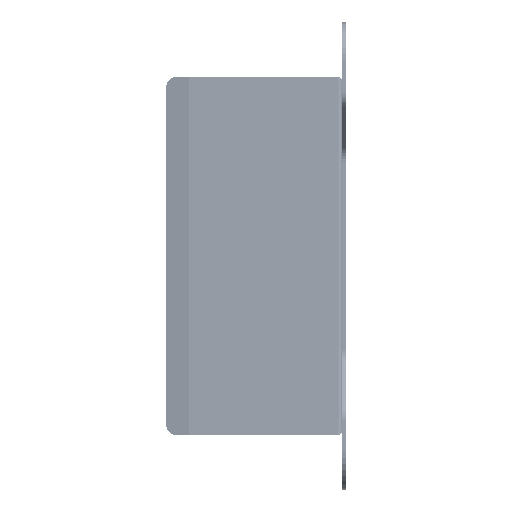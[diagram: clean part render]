
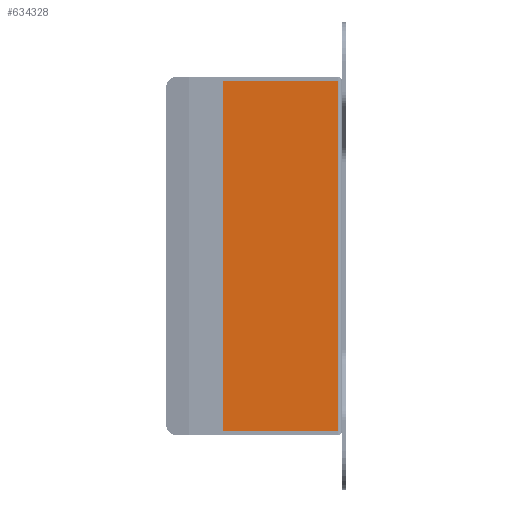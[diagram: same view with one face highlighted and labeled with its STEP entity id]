
A CAD part, left-side view. The second image highlights one B-rep face of the part: STEP entity #634328.
In plain terms, the highlighted planar face has unit normal (-1, 0, 0) as drawn and (1, 0, 0) by its records, which use the part's own axes.
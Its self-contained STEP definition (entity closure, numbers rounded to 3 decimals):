
#632423=DIRECTION('',(0.,-1.,0.));
#632424=VECTOR('',#632423,29.5);
#632425=CARTESIAN_POINT('',(31.9,-0.1,44.8));
#632426=LINE('',#632425,#632424);
#632427=DIRECTION('',(0.,1.,0.));
#632428=VECTOR('',#632427,29.5);
#632429=CARTESIAN_POINT('',(31.9,-29.6,-44.8));
#632430=LINE('',#632429,#632428);
#632431=DIRECTION('',(0.,0.,-1.));
#632432=VECTOR('',#632431,89.6);
#632433=CARTESIAN_POINT('',(31.9,-29.6,44.8));
#632434=LINE('',#632433,#632432);
#632435=DIRECTION('',(0.,0.,1.));
#632436=VECTOR('',#632435,89.6);
#632437=CARTESIAN_POINT('',(31.9,-0.1,-44.8));
#632438=LINE('',#632437,#632436);
#633333=CARTESIAN_POINT('',(31.9,-0.1,44.8));
#633334=CARTESIAN_POINT('',(31.9,-29.6,44.8));
#633335=VERTEX_POINT('',#633333);
#633336=VERTEX_POINT('',#633334);
#633337=CARTESIAN_POINT('',(31.9,-29.6,-44.8));
#633338=VERTEX_POINT('',#633337);
#633339=CARTESIAN_POINT('',(31.9,-0.1,-44.8));
#633340=VERTEX_POINT('',#633339);
#634314=CARTESIAN_POINT('',(31.9,1.,23.511));
#634315=DIRECTION('',(1.,0.,0.));
#634316=DIRECTION('',(0.,0.,1.));
#634317=AXIS2_PLACEMENT_3D('',#634314,#634315,#634316);
#634318=PLANE('',#634317);
#634319=ORIENTED_EDGE('',*,*,#634304,.F.);
#634321=ORIENTED_EDGE('',*,*,#634320,.F.);
#634323=ORIENTED_EDGE('',*,*,#634322,.F.);
#634325=ORIENTED_EDGE('',*,*,#634324,.F.);
#634326=EDGE_LOOP('',(#634319,#634321,#634323,#634325));
#634327=FACE_OUTER_BOUND('',#634326,.F.);
#634328=ADVANCED_FACE('',(#634327),#634318,.T.);
#634304=EDGE_CURVE('',#633335,#633336,#632426,.T.);
#634320=EDGE_CURVE('',#633340,#633335,#632438,.T.);
#634322=EDGE_CURVE('',#633338,#633340,#632430,.T.);
#634324=EDGE_CURVE('',#633336,#633338,#632434,.T.);
